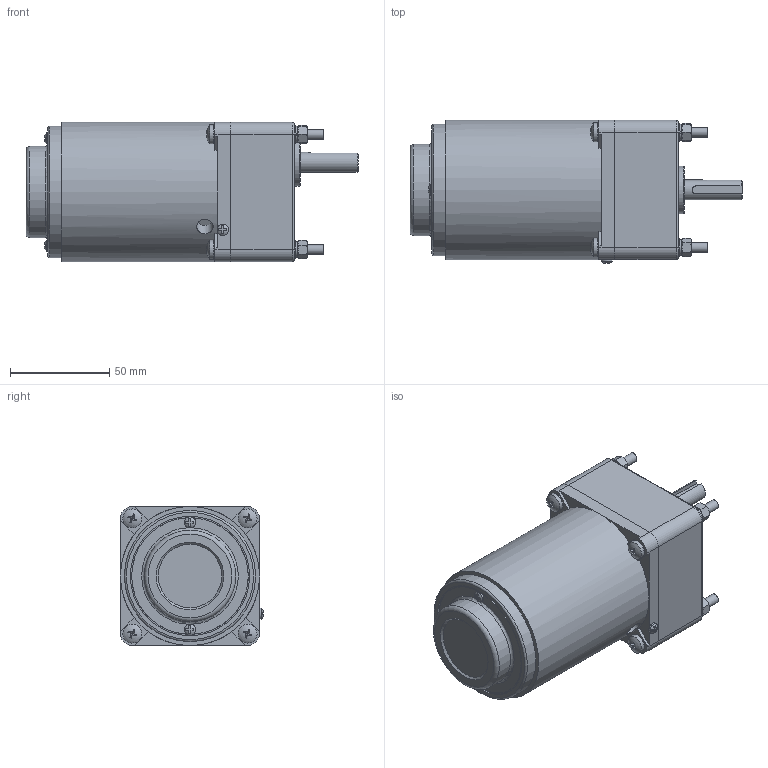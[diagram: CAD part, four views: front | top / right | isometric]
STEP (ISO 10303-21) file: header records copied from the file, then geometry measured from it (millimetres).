
FILE_DESCRIPTION(/* description */ (''),/* implementation_level */ '2;1');
FILE_NAME(/* name */ '70矮箱T-25调速.stp',/* time_stamp */ '2022-10-31T09:55:01+08:00',/* author */ (''),/* organization */ (''),/* preprocessor_version */ 'ST-DEVELOPER v16.7',/* originating_system */ 'SIEMENS PLM Software NX 1899',/* authorisation */ '');
FILE_SCHEMA (('AP203_CONFIGURATION_CONTROLLED_3D_DESIGN_OF_MECHANICAL_PARTS_AND_ASSEMBLIES_MIM_LF { 1 0 10303 403 2 1 2}'));
Length unit declared in the file: millimetre
Products named in the file (1): yf186188FEB6lchf
Bounding box: 167 x 72.04 x 70 mm (x, y, z)
Volume: 532667.6 mm3; surface area: 64475.1 mm2
Topology: 22 solids, 24 shells, 431 faces, 1018 edges, 655 vertices
Faces by surface type: plane 189, bspline 80, cylinder 78, cone 64, torus 13, sphere 7
Full cylindrical faces by diameter (mm): 2.7 x1, 4.351 x4, 4.826 x4, 5 x4, 5.3 x8, 5.6 x3, 6 x9, 8.3 x1, 9 x8, 9.5 x4, 10 x1, 24 x1, 37 x1, 46 x1, 58.6 x1, 60 x1, 63 x1, 66 x1, 66.6 x2, 70 x1
Entity records: 13481 total; most frequent: CARTESIAN_POINT 3475, ORIENTED_EDGE 1792, DIRECTION 1613, EDGE_CURVE 896, AXIS2_PLACEMENT_3D 687, VERTEX_POINT 620, EDGE_LOOP 577, ADVANCED_FACE 431
